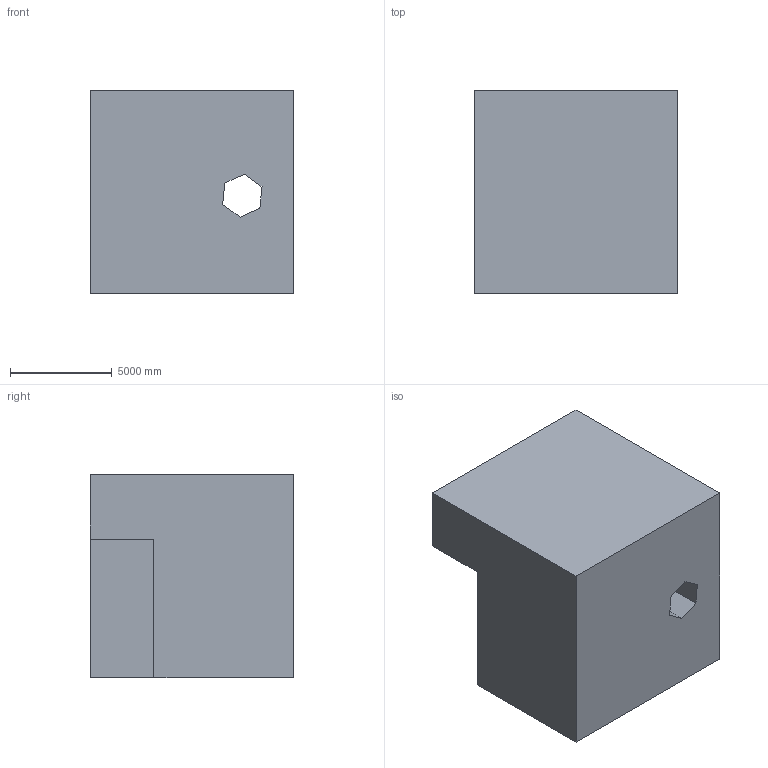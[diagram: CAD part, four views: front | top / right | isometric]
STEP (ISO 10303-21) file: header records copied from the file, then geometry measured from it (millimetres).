
FILE_DESCRIPTION (( 'STEP AP203' ), '1' );
FILE_NAME ('1160.STEP', '2022-08-18T12:59:50', ( 'user' ), ( '' ), 'SwSTEP 2.0', 'SolidWorks 2021', '' );
FILE_SCHEMA (( 'CONFIG_CONTROL_DESIGN' ));
Length unit declared in the file: centimetre
Products named in the file (1): 1160
Bounding box: 10000 x 10000 x 10000 mm (x, y, z)
Volume: 884339109600 mm3; surface area: 657865595.7 mm2
Topology: 1 solids, 1 shells, 15 faces, 39 edges, 26 vertices
Faces by surface type: plane 15
Entity records: 534 total; most frequent: CARTESIAN_POINT 81, ORIENTED_EDGE 78, DIRECTION 71, VECTOR 39, LINE 39, EDGE_CURVE 39, VERTEX_POINT 26, EDGE_LOOP 17
